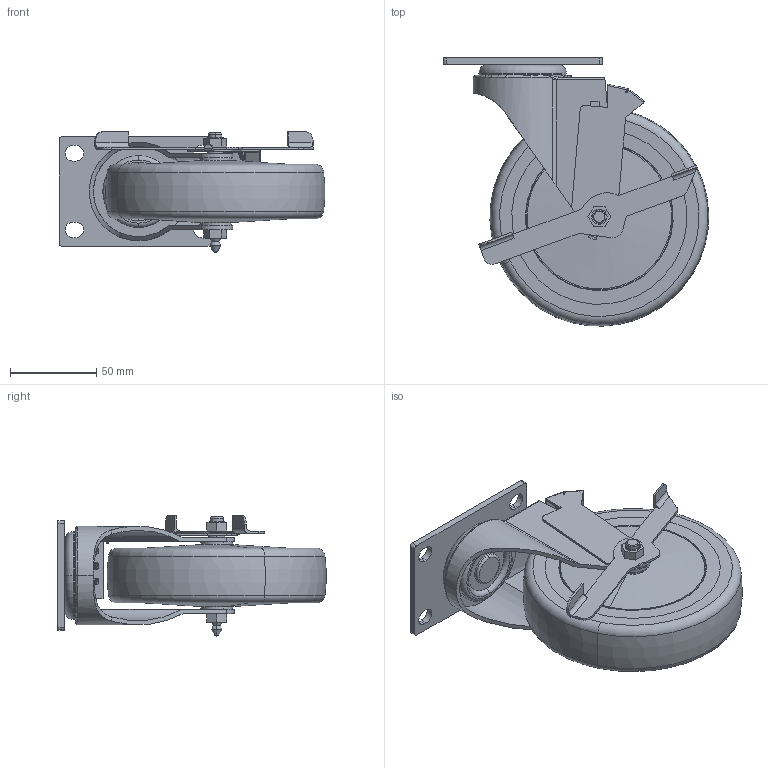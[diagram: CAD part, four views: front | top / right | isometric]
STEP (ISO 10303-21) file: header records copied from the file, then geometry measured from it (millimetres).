
FILE_DESCRIPTION (( 'STEP AP214' ), '1' );
FILE_NAME ('SCC-20S514-PPUB-TLB-BLACK 3D STEP.STEP', '2024-07-16T15:48:48', ( '' ), ( '' ), 'SwSTEP 2.0', 'SolidWorks 2016', '' );
FILE_SCHEMA (( 'AUTOMOTIVE_DESIGN' ));
Length unit declared in the file: inch
Products named in the file (1): SCC-20S514-PPUB-TLB-BLACK 3D STEP
Bounding box: 153.89 x 155.48 x 69.95 mm (x, y, z)
Volume: 546450.3 mm3; surface area: 119601.6 mm2
Topology: 5 solids, 6 shells, 427 faces, 1067 edges, 681 vertices
Faces by surface type: plane 155, cylinder 154, bspline 61, torus 45, cone 8, sphere 4
Entity records: 20695 total; most frequent: CARTESIAN_POINT 5019, ORIENTED_EDGE 2118, DIRECTION 2046, EDGE_CURVE 1059, AXIS2_PLACEMENT_3D 764, VERTEX_POINT 677, VECTOR 518, LINE 518
